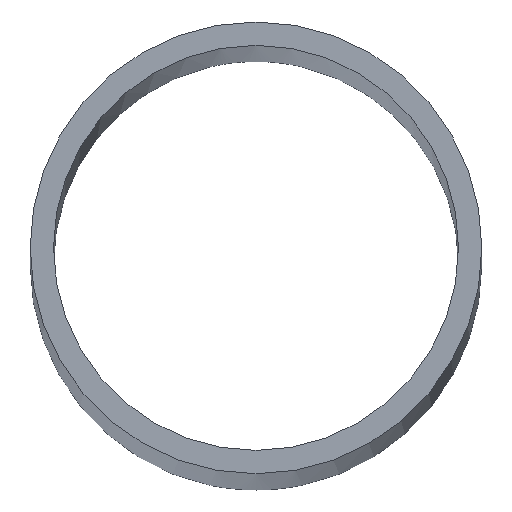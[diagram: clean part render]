
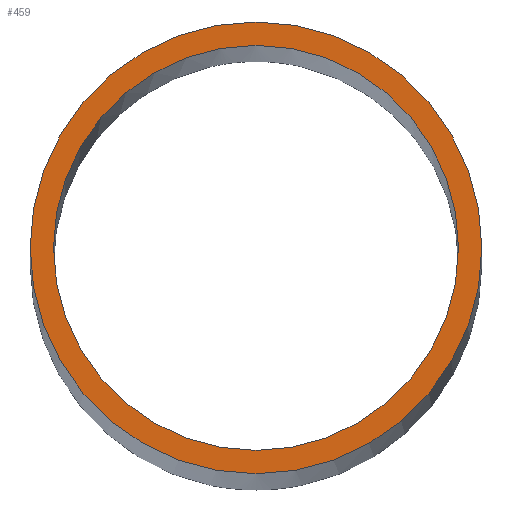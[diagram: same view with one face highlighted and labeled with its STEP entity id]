
A CAD part, top view. The second image highlights one B-rep face of the part: STEP entity #459.
In plain terms, the highlighted planar face has unit normal (0, 0, 1).
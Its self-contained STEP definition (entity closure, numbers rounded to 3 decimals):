
#2 = CARTESIAN_POINT ( 'NONE',  ( 2876.65, 0., 3400. ) ) ;
#8 = DIRECTION ( 'NONE',  ( 1., 0., 0. ) ) ;
#26 = EDGE_CURVE ( 'NONE', #267, #426, #533, .T. ) ;
#48 = CARTESIAN_POINT ( 'NONE',  ( 2855., 0., 3400. ) ) ;
#59 = DIRECTION ( 'NONE',  ( 0., 0., 1. ) ) ;
#73 = EDGE_CURVE ( 'NONE', #470, #220, #378, .T. ) ;
#76 = EDGE_LOOP ( 'NONE', ( #217, #538 ) ) ;
#126 = PLANE ( 'NONE',  #297 ) ;
#131 = ORIENTED_EDGE ( 'NONE', *, *, #73, .T. ) ;
#141 = DIRECTION ( 'NONE',  ( 0., 0., 1. ) ) ;
#149 = DIRECTION ( 'NONE',  ( 0., 0., 1. ) ) ;
#152 = CARTESIAN_POINT ( 'NONE',  ( 2855., 0., 3400. ) ) ;
#180 = EDGE_CURVE ( 'NONE', #426, #267, #292, .T. ) ;
#192 = DIRECTION ( 'NONE',  ( 1., 0., 0. ) ) ;
#194 = DIRECTION ( 'NONE',  ( 0., 0., 1. ) ) ;
#209 = AXIS2_PLACEMENT_3D ( 'NONE', #152, #149, #284 ) ;
#217 = ORIENTED_EDGE ( 'NONE', *, *, #26, .F. ) ;
#220 = VERTEX_POINT ( 'NONE', #312 ) ;
#227 = EDGE_CURVE ( 'NONE', #220, #470, #442, .T. ) ;
#232 = CARTESIAN_POINT ( 'NONE',  ( 2833.35, 0., 3400. ) ) ;
#260 = FACE_OUTER_BOUND ( 'NONE', #472, .T. ) ;
#267 = VERTEX_POINT ( 'NONE', #232 ) ;
#271 = AXIS2_PLACEMENT_3D ( 'NONE', #276, #141, #8 ) ;
#276 = CARTESIAN_POINT ( 'NONE',  ( 2855., 0., 3400. ) ) ;
#281 = AXIS2_PLACEMENT_3D ( 'NONE', #48, #194, #286 ) ;
#284 = DIRECTION ( 'NONE',  ( 1., 0., 0. ) ) ;
#285 = CARTESIAN_POINT ( 'NONE',  ( 2830.85, 0., 3400. ) ) ;
#286 = DIRECTION ( 'NONE',  ( 1., 0., 0. ) ) ;
#288 = CARTESIAN_POINT ( 'NONE',  ( 2855., 0., 3400. ) ) ;
#292 = CIRCLE ( 'NONE', #271, 21.65 ) ;
#293 = ORIENTED_EDGE ( 'NONE', *, *, #227, .T. ) ;
#297 = AXIS2_PLACEMENT_3D ( 'NONE', #306, #351, #303 ) ;
#303 = DIRECTION ( 'NONE',  ( 1., 0., 0. ) ) ;
#306 = CARTESIAN_POINT ( 'NONE',  ( 2855., 0., 3400. ) ) ;
#312 = CARTESIAN_POINT ( 'NONE',  ( 2879.15, 0., 3400. ) ) ;
#351 = DIRECTION ( 'NONE',  ( 0., 0., 1. ) ) ;
#378 = CIRCLE ( 'NONE', #457, 24.15 ) ;
#426 = VERTEX_POINT ( 'NONE', #2 ) ;
#442 = CIRCLE ( 'NONE', #209, 24.15 ) ;
#457 = AXIS2_PLACEMENT_3D ( 'NONE', #288, #59, #192 ) ;
#459 = ADVANCED_FACE ( 'NONE', ( #260, #501 ), #126, .T. ) ;
#470 = VERTEX_POINT ( 'NONE', #285 ) ;
#472 = EDGE_LOOP ( 'NONE', ( #131, #293 ) ) ;
#501 = FACE_BOUND ( 'NONE', #76, .T. ) ;
#533 = CIRCLE ( 'NONE', #281, 21.65 ) ;
#538 = ORIENTED_EDGE ( 'NONE', *, *, #180, .F. ) ;
